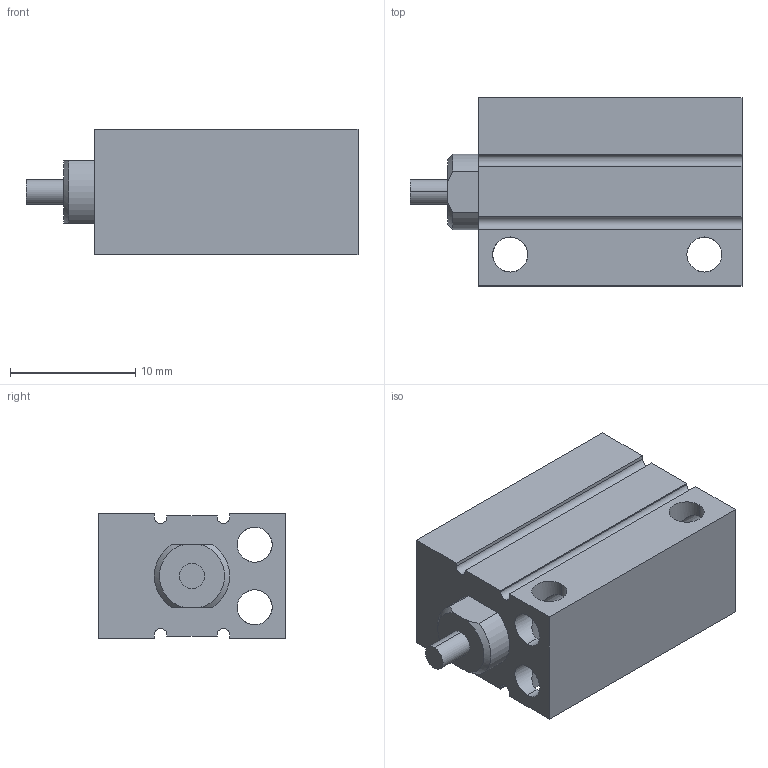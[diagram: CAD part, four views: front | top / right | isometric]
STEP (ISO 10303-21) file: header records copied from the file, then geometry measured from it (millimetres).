
FILE_DESCRIPTION (( 'STEP AP203' ), '1' );
FILE_NAME ('CLJB4-8.STEP', '2020-07-30T18:40:40', ( '' ), ( '' ), 'SwSTEP 2.0', 'SolidWorks 2019', '' );
FILE_SCHEMA (( 'CONFIG_CONTROL_DESIGN' ));
Length unit declared in the file: millimetre
Products named in the file (1): CLJB4-8
Bounding box: 26.5 x 15 x 10 mm (x, y, z)
Volume: 2697 mm3; surface area: 2216.3 mm2
Topology: 2 solids, 2 shells, 80 faces, 208 edges, 126 vertices
Faces by surface type: cylinder 44, plane 26, cone 10
Entity records: 2501 total; most frequent: CARTESIAN_POINT 519, ORIENTED_EDGE 408, DIRECTION 392, EDGE_CURVE 204, AXIS2_PLACEMENT_3D 143, VERTEX_POINT 126, VECTOR 106, LINE 106
